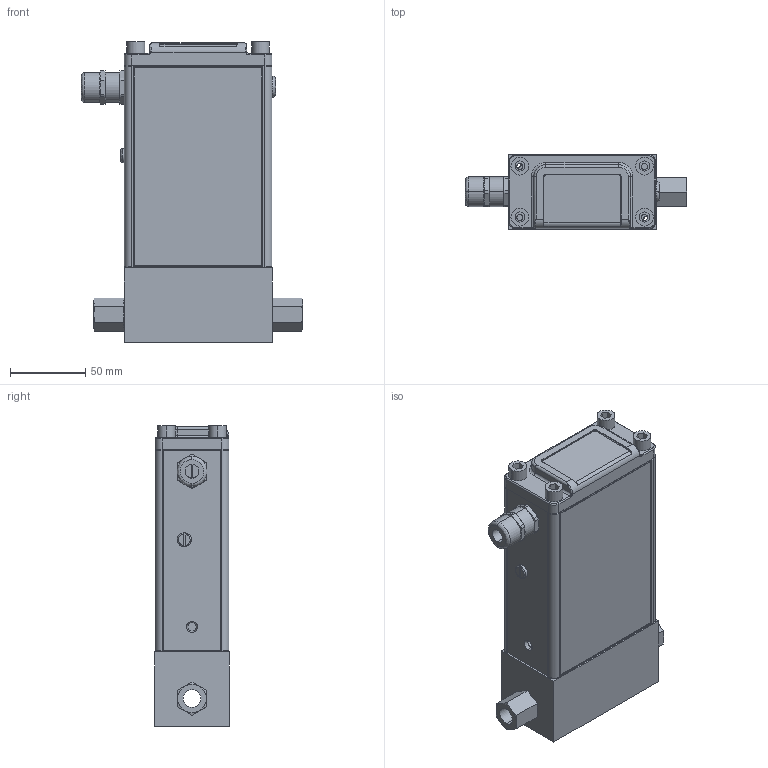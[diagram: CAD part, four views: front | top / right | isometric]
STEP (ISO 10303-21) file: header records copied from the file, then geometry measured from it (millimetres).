
FILE_DESCRIPTION (( 'STEP AP203' ), '1' );
FILE_NAME ('SLAMF60S1Gxx0Gxxx.STEP', '2017-02-28T18:15:17', ( 'mrutkowski' ), ( 'Hewlett-Packard Company' ), 'SwSTEP 2.0', 'SolidWorks 2014', '' );
FILE_SCHEMA (( 'CONFIG_CONTROL_DESIGN' ));
Length unit declared in the file: inch
Products named in the file (1): SLAMF60S1Gxx0Gxxx
Bounding box: 147 x 49.5 x 199.98 mm (x, y, z)
Surface area: 97870.4 mm2 (no closed solid volume)
Topology: 0 solids, 78 shells, 440 faces, 1789 edges, 1406 vertices
Faces by surface type: plane 306, cylinder 90, bspline 28, cone 16
Entity records: 19469 total; most frequent: CARTESIAN_POINT 5062, DIRECTION 2829, ORIENTED_EDGE 2510, EDGE_CURVE 1785, VERTEX_POINT 1406, LINE 1359, VECTOR 1359, AXIS2_PLACEMENT_3D 735
